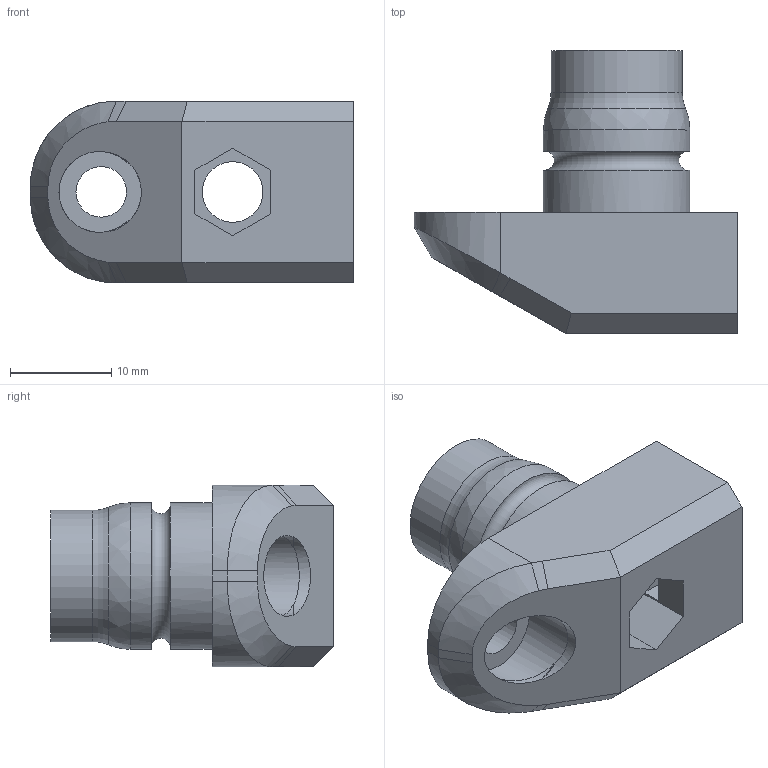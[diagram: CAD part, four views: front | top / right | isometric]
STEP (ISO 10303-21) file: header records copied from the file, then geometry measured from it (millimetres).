
FILE_DESCRIPTION(/* description */ (''),/* implementation_level */ '2;1');
FILE_NAME(/* name */ 'C:/Users/Dí Rezo/Downloads/cidlo v1.step',/* time_stamp */ '2021-05-24T13:59:30+02:00',/* author */ (''),/* organization */ (''),/* preprocessor_version */ 'ST-DEVELOPER v18.1',/* originating_system */ 'Autodesk Translation Framework v10.6.0.1341',/* authorisation */ '');
FILE_SCHEMA (('AUTOMOTIVE_DESIGN { 1 0 10303 214 3 1 1 }'));
Length unit declared in the file: millimetre
Products named in the file (1): cidlo
Bounding box: 32 x 28 x 18 mm (x, y, z)
Volume: 6461.1 mm3; surface area: 3420.8 mm2
Topology: 1 solids, 1 shells, 45 faces, 113 edges, 74 vertices
Faces by surface type: plane 28, cylinder 10, bspline 5, torus 2
Full cylindrical faces by diameter (mm): 5 x1, 6 x1, 8.5 x1, 13 x1, 14.5 x2
Entity records: 1565 total; most frequent: CARTESIAN_POINT 455, ORIENTED_EDGE 226, DIRECTION 208, EDGE_CURVE 113, VERTEX_POINT 74, LINE 72, VECTOR 72, AXIS2_PLACEMENT_3D 68
